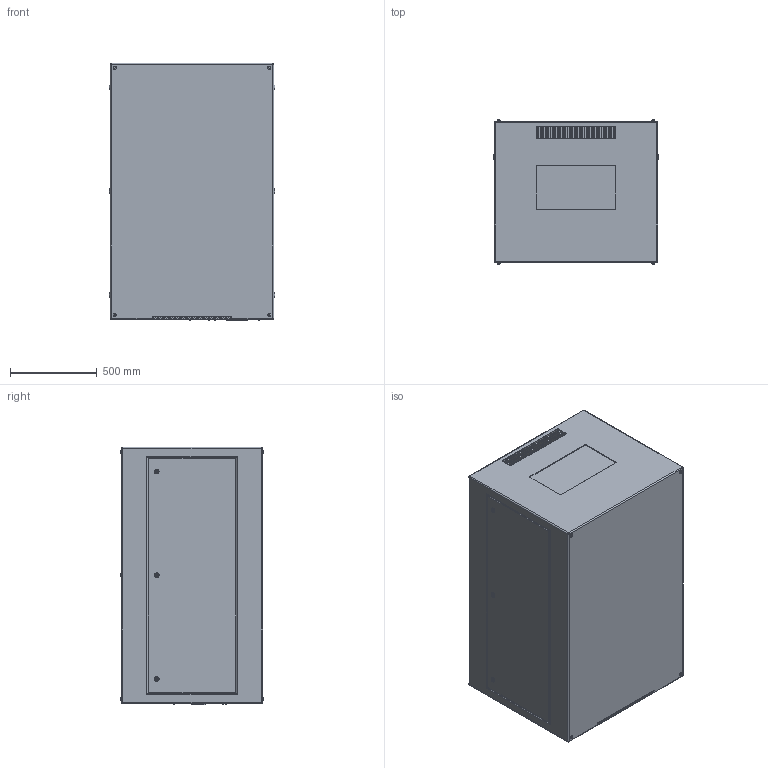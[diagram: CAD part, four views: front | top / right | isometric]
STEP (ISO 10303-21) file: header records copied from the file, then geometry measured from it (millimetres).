
FILE_DESCRIPTION (( 'STEP AP214' ), '1' );
FILE_NAME ('Zen 57.322.L R11.STEP', '2022-09-15T21:17:25', ( '' ), ( '' ), 'SwSTEP 2.0', 'SolidWorks 2020', '' );
FILE_SCHEMA (( 'AUTOMOTIVE_DESIGN' ));
Length unit declared in the file: inch
Products named in the file (1): Zen 57.322.L R11
Bounding box: 952.5 x 827.51 x 1480.82 mm (x, y, z)
Volume: 1123703546 mm3; surface area: 7084769 mm2
Topology: 1 solids, 7 shells, 1134 faces, 2856 edges, 1758 vertices
Faces by surface type: plane 518, cylinder 490, sphere 74, torus 52
Entity records: 37528 total; most frequent: CARTESIAN_POINT 6243, DIRECTION 5988, ORIENTED_EDGE 5564, EDGE_CURVE 2782, AXIS2_PLACEMENT_3D 2167, VERTEX_POINT 1758, LINE 1654, VECTOR 1654
